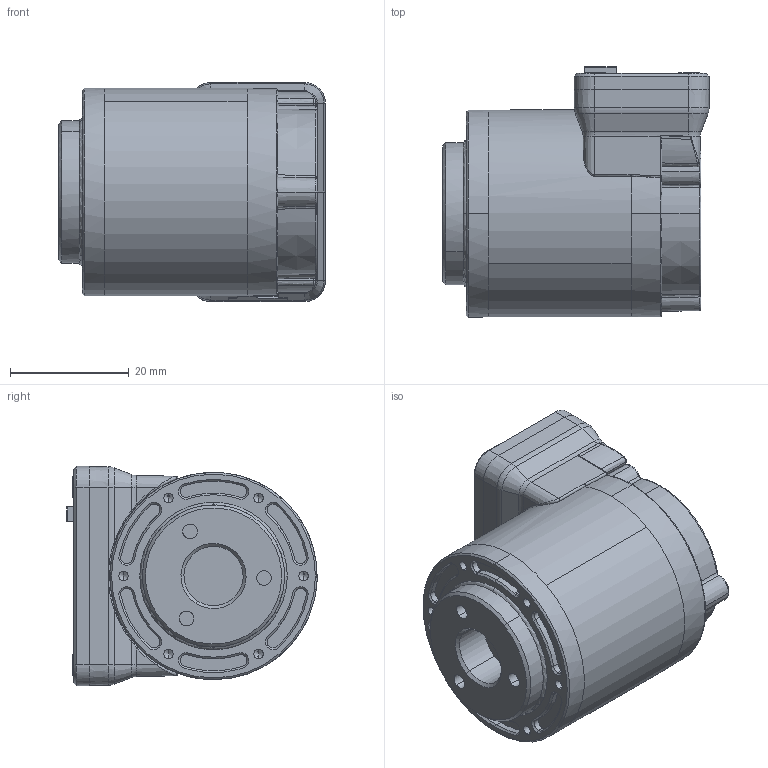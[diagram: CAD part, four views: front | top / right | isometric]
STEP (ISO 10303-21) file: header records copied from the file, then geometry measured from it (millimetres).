
FILE_DESCRIPTION (( 'STEP AP214' ), '1' );
FILE_NAME ('QDD-C-EL20-36_v1_8.STEP', '2019-07-26T10:38:05', ( 'Microsoft' ), ( 'Microsoft' ), 'SwSTEP 2.0', 'SolidWorks 2018', '' );
FILE_SCHEMA (( 'AUTOMOTIVE_DESIGN' ));
Length unit declared in the file: millimetre
Products named in the file (1): QDD-C-EL20-36_v1_8
Bounding box: 45.02 x 42.23 x 37 mm (x, y, z)
Volume: 40530.2 mm3; surface area: 15204.6 mm2
Topology: 2 solids, 2 shells, 1269 faces, 3583 edges, 2281 vertices
Faces by surface type: plane 645, cylinder 314, cone 129, bspline 115, torus 54, sphere 12
Entity records: 58258 total; most frequent: CARTESIAN_POINT 13247, ORIENTED_EDGE 7124, DIRECTION 5692, EDGE_CURVE 3562, VERTEX_POINT 2281, LINE 2086, VECTOR 2086, AXIS2_PLACEMENT_3D 1803
